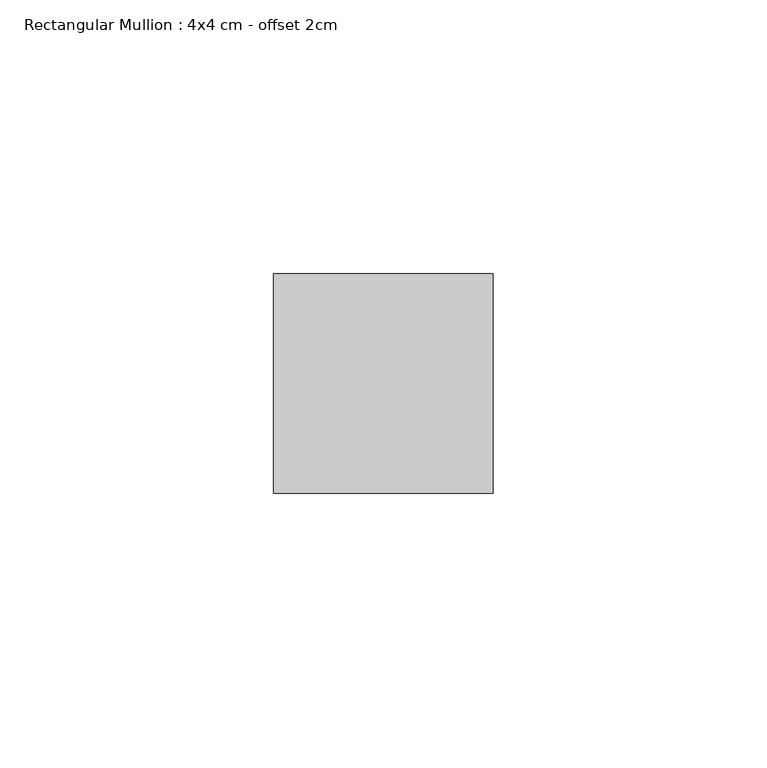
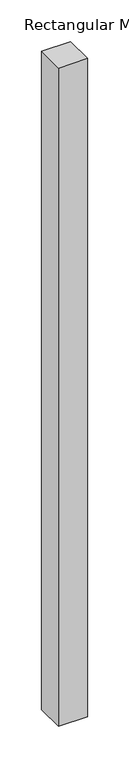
"""IFC4 building model written with IfcOpenShell, lengths in millimetres: member geometry, Rectangular Mullion : 4x4 cm - offset 2cm."""

import ifcopenshell
import ifcopenshell.guid

model = None  # the IFC model being written
_history = None  # IfcOwnerHistory: only IFC2X3 demands one
_inside = {}  # id of a spatial element -> (the spatial element, [elements in it])
_under = {}  # id of a project, library or spatial element -> (it, [spatial elements below it])
_declared = {}  # id of a project -> (the project, [libraries it declares])
_typed = {}  # id of a type object -> (the type object, [elements of that type])
_made_of = {}  # id of a material, layer set ... -> (it, [elements and type objects made of it])


def new_model(schema):
    """Start an empty IFC model of exactly this schema.

    Asked for "IFC4X3", IfcOpenShell would pick the latest addendum, in which some entities
    have other attributes; the version numbers below select the first issue.
    IFC2X3 requires an IfcOwnerHistory on every rooted entity: one is made here for all.
    """
    global model, _history
    if schema == "IFC4X3":
        model = ifcopenshell.file(schema_version=(4, 3, 0, 0))
    else:
        model = ifcopenshell.file(schema=schema)
    _inside.clear()
    _under.clear()
    _declared.clear()
    _typed.clear()
    _made_of.clear()
    _history = None
    if model.schema == "IFC2X3":
        org = make("IfcOrganization", Name="unknown")
        user = make(
            "IfcPersonAndOrganization",
            ThePerson=make("IfcPerson", FamilyName="unknown"),
            TheOrganization=org,
        )
        app = make(
            "IfcApplication",
            ApplicationDeveloper=org,
            Version="unknown",
            ApplicationFullName="unknown",
            ApplicationIdentifier="unknown",
        )
        _history = make(
            "IfcOwnerHistory",
            OwningUser=user,
            OwningApplication=app,
            ChangeAction="ADDED",
            CreationDate=0,
        )
    return model


def make(cls, **values):
    """One entity of the class cls with the attributes given. An attribute that is None is left unset."""
    return model.create_entity(
        cls, **{name: value for name, value in values.items() if value is not None}
    )


def rooted(cls, **values):
    """An entity with a GlobalId (a new one), such as an element, a storey or a relation."""
    return make(cls, GlobalId=ifcopenshell.guid.new(), OwnerHistory=_history, **values)


def si_unit(unit_type, name, prefix=None):
    """IfcSIUnit, for example si_unit("LENGTHUNIT", "METRE", prefix="MILLI")."""
    return make("IfcSIUnit", UnitType=unit_type, Prefix=prefix, Name=name)


def assignment(units):
    """IfcUnitAssignment: the units of a project."""
    return None if units is None else make("IfcUnitAssignment", Units=units)


def point(xyz):
    """IfcCartesianPoint."""
    return None if xyz is None else make("IfcCartesianPoint", Coordinates=xyz)


def direction(xyz):
    """IfcDirection."""
    return None if xyz is None else make("IfcDirection", DirectionRatios=xyz)


def frame(location, z_axis=None, x_axis=None):
    """IfcAxis2Placement3D, a coordinate frame: its origin and axes. An axis left out is left unset."""
    return make(
        "IfcAxis2Placement3D",
        Location=point(location),
        Axis=direction(z_axis),
        RefDirection=direction(x_axis),
    )


def origin():
    """The frame at (0, 0, 0) with its axes left unset."""
    return frame((0.0, 0.0, 0.0))


def place(relative_to, where):
    """IfcLocalPlacement: puts the frame where relative to a parent placement (None: the world)."""
    return make(
        "IfcLocalPlacement", PlacementRelTo=relative_to, RelativePlacement=where
    )


def context(
    kind, dimensions, precision=None, world=None, true_north=None, identifier=None
):
    """IfcGeometricRepresentationContext, for example the 3D "Model" context."""
    return make(
        "IfcGeometricRepresentationContext",
        ContextIdentifier=identifier,
        ContextType=kind,
        CoordinateSpaceDimension=dimensions,
        Precision=precision,
        WorldCoordinateSystem=world,
        TrueNorth=true_north,
    )


def project(units=None, contexts=None):
    """IfcProject with its units and contexts."""
    return rooted(
        "IfcProject",
        Name="project",
        RepresentationContexts=contexts,
        UnitsInContext=assignment(units),
    )


def spatial(cls, under=None, at=None, **own):
    """A site, building, storey or space (cls), placed at a placement, below another one or the project."""
    s = rooted(cls, ObjectPlacement=at, **own)
    if under is not None:
        _under.setdefault(under.id(), (under, []))[1].append(s)
    return s


def polyline(points):
    """IfcPolyline through the points."""
    return make("IfcPolyline", Points=[point(p) for p in points])


def outline(outer, holes=None, kind="AREA"):
    """IfcArbitraryClosedProfileDef: a profile drawn as a closed curve; with holes, ...WithVoids."""
    if holes is None:
        return make("IfcArbitraryClosedProfileDef", ProfileType=kind, OuterCurve=outer)
    return make(
        "IfcArbitraryProfileDefWithVoids",
        ProfileType=kind,
        OuterCurve=outer,
        InnerCurves=holes,
    )


def extrude(swept, where, along, depth):
    """IfcExtrudedAreaSolid: the profile swept, set in the frame where, extruded along a direction by depth."""
    return make(
        "IfcExtrudedAreaSolid",
        SweptArea=swept,
        Position=where,
        ExtrudedDirection=direction(along),
        Depth=depth,
    )


def shape(context_of_items, identifier, shape_type, items):
    """IfcShapeRepresentation: the items that make up one representation, for example the "Body"."""
    return make(
        "IfcShapeRepresentation",
        ContextOfItems=context_of_items,
        RepresentationIdentifier=identifier,
        RepresentationType=shape_type,
        Items=items,
    )


def source(mapping_origin, context_of_items, identifier, shape_type, items):
    """IfcRepresentationMap: a shape defined once, which mapped items show again and again."""
    return make(
        "IfcRepresentationMap",
        MappingOrigin=mapping_origin,
        MappedRepresentation=shape(context_of_items, identifier, shape_type, items),
    )


def transform(
    local_origin,
    x_axis=None,
    y_axis=None,
    z_axis=None,
    scale=None,
    scale2=None,
    scale3=None,
    uniform=True,
):
    """IfcCartesianTransformationOperator3D, or its non-uniform kind. x_axis, y_axis, z_axis: its Axis1, 2, 3."""
    if uniform:
        return make(
            "IfcCartesianTransformationOperator3D",
            Axis1=direction(x_axis),
            Axis2=direction(y_axis),
            LocalOrigin=point(local_origin),
            Scale=scale,
            Axis3=direction(z_axis),
        )
    return make(
        "IfcCartesianTransformationOperator3DnonUniform",
        Axis1=direction(x_axis),
        Axis2=direction(y_axis),
        LocalOrigin=point(local_origin),
        Scale=scale,
        Axis3=direction(z_axis),
        Scale2=scale2,
        Scale3=scale3,
    )


def mapped(mapping_source, mapping_target):
    """IfcMappedItem: shows the shape of a source again, moved by a transform."""
    return make(
        "IfcMappedItem", MappingSource=mapping_source, MappingTarget=mapping_target
    )


def made_of(thing, what):
    """Note that an element or type object is made of a material, layer set ...; save() writes the relation."""
    if what is not None:
        _made_of.setdefault(what.id(), (what, []))[1].append(thing)
    return thing


def element(
    cls,
    number,
    at=None,
    inside=None,
    cuts=None,
    type_object=None,
    material=None,
    context=None,
    identifier="Body",
    shape_type=None,
    held_by="IfcProductDefinitionShape",
    body=None,
    shapes=None,
    **own,
):
    """One element of the class cls, such as IfcWall. Its Tag is "e" and its number.

    at: its placement. inside: the storey or other place that contains it. cuts: it is an
    opening in that element (IfcRelVoidsElement). A single representation is given by context,
    identifier, shape_type and body (its items); several are given by shapes. held_by: the class
    of the entity that holds the representations. save() writes the other relations.
    """
    e = rooted(cls, Tag="e%d" % number, ObjectPlacement=at, **own)
    if body is not None:
        shapes = [shape(context, identifier, shape_type, body)]
    if shapes is not None:
        e.Representation = make(held_by, Representations=shapes)
    if inside is not None:
        _inside.setdefault(inside.id(), (inside, []))[1].append(e)
    if cuts is not None:
        rooted(
            "IfcRelVoidsElement", RelatingBuildingElement=cuts, RelatedOpeningElement=e
        )
    if type_object is not None:
        _typed.setdefault(type_object.id(), (type_object, []))[1].append(e)
    return made_of(e, material)


def aggregate(whole, parts):
    """IfcRelAggregates: a whole, such as a stair, and the parts it consists of."""
    return rooted("IfcRelAggregates", RelatingObject=whole, RelatedObjects=parts)


def save(model, path):
    """Write the relations noted so far, then the file.

    IfcRelAggregates (storeys below a building ...), IfcRelContainedInSpatialStructure (elements
    in a storey), IfcRelDefinesByType, IfcRelAssociatesMaterial and IfcRelDeclares: one each for
    every whole, place, type object, material and project.
    """
    for whole, parts in _under.values():
        aggregate(whole, parts)
    for where, things in _inside.values():
        rooted(
            "IfcRelContainedInSpatialStructure",
            RelatedElements=things,
            RelatingStructure=where,
        )
    for kind, things in _typed.values():
        rooted("IfcRelDefinesByType", RelatedObjects=things, RelatingType=kind)
    for what, things in _made_of.values():
        rooted("IfcRelAssociatesMaterial", RelatedObjects=things, RelatingMaterial=what)
    for by, libraries in _declared.values():
        rooted("IfcRelDeclares", RelatingContext=by, RelatedDefinitions=libraries)
    model.write(path)


def rectangular_mullion_4x4_cm_offset_2cm_bcd7c595(model_context):
    return source(origin(), model_context, "Body", "SweptSolid", [
        extrude(outline(polyline([(0.0, 40.0), (0.0, 0.0), (-40.0, 0.0), (-40.0, 40.0), (0.0, 40.0)])), frame((0.0, 0.0, -960.0000003), z_axis=(0.0, 0.0, 1.0), x_axis=(1.0, 0.0, 0.0)), (0.0, 0.0, 1.0), 960.0000003),
    ])


if __name__ == "__main__":
    model = new_model("IFC4")
    model_context = context("Model", 3, world=origin())
    ifc_project = project(units=[si_unit("LENGTHUNIT", "METRE", prefix="MILLI")], contexts=[model_context])
    site = spatial("IfcSite", under=ifc_project)
    building = spatial("IfcBuilding", under=site)
    placement = place(None, origin())
    rectangular_mullion_4x4_cm_offset_2cm_shape = rectangular_mullion_4x4_cm_offset_2cm_bcd7c595(model_context)
    element("IfcMember", 1, ObjectType="Rectangular Mullion : 4x4 cm - offset 2cm", at=placement, inside=building, context=model_context, shape_type="MappedRepresentation", body=[
        mapped(rectangular_mullion_4x4_cm_offset_2cm_shape, transform((0.0, 0.0, 0.0), x_axis=(1.0, 0.0, 0.0), y_axis=(0.0, 1.0, 0.0), z_axis=(0.0, 0.0, 1.0))),
    ])
    save(model, "model.ifc")
